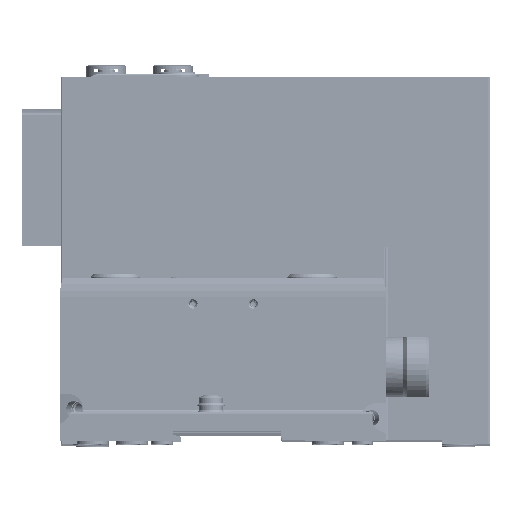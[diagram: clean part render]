
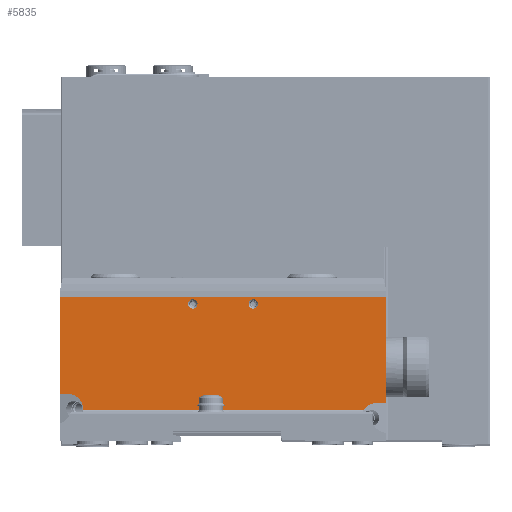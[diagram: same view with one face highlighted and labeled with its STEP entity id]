
A CAD part, top view. The second image highlights one B-rep face of the part: STEP entity #5835.
In plain terms, the highlighted planar face has unit normal (0, 0, 1) as drawn and (-1, 0, 0) by its records, which use the part's own axes.
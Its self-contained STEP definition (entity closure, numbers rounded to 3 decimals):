
#5835 = ADVANCED_FACE( '', ( #12470, #12471, #12472 ), #12473, .F. );
#12470 = FACE_BOUND( '', #19787, .T. );
#12471 = FACE_BOUND( '', #19788, .T. );
#12472 = FACE_OUTER_BOUND( '', #19789, .T. );
#12473 = PLANE( '', #19790 );
#19787 = EDGE_LOOP( '', ( #35013 ) );
#19788 = EDGE_LOOP( '', ( #35014 ) );
#19789 = EDGE_LOOP( '', ( #35015, #35016, #35017, #35018, #35019, #35020, #35021, #35022 ) );
#19790 = AXIS2_PLACEMENT_3D( '', #35023, #35024, #35025 );
#35013 = ORIENTED_EDGE( '', *, *, #43232, .T. );
#35014 = ORIENTED_EDGE( '', *, *, #45372, .T. );
#35015 = ORIENTED_EDGE( '', *, *, #41851, .T. );
#35016 = ORIENTED_EDGE( '', *, *, #44826, .T. );
#35017 = ORIENTED_EDGE( '', *, *, #41002, .F. );
#35018 = ORIENTED_EDGE( '', *, *, #42848, .F. );
#35019 = ORIENTED_EDGE( '', *, *, #45373, .F. );
#35020 = ORIENTED_EDGE( '', *, *, #45022, .T. );
#35021 = ORIENTED_EDGE( '', *, *, #44650, .F. );
#35022 = ORIENTED_EDGE( '', *, *, #44074, .T. );
#35023 = CARTESIAN_POINT( '', ( -15.4, 48.7, 54.05 ) );
#35024 = DIRECTION( '', ( 1., 0., 0. ) );
#35025 = DIRECTION( '', ( 0., 0., -1. ) );
#41002 = EDGE_CURVE( '', #48999, #49000, #49001, .F. );
#41851 = EDGE_CURVE( '', #50424, #50422, #50425, .T. );
#42848 = EDGE_CURVE( '', #51967, #48999, #51969, .T. );
#43232 = EDGE_CURVE( '', #52525, #52525, #52526, .T. );
#44074 = EDGE_CURVE( '', #53707, #50424, #53710, .T. );
#44650 = EDGE_CURVE( '', #53707, #54462, #54469, .T. );
#44826 = EDGE_CURVE( '', #50422, #49000, #54692, .T. );
#45022 = EDGE_CURVE( '', #54928, #54462, #54930, .T. );
#45372 = EDGE_CURVE( '', #55356, #55356, #55357, .T. );
#45373 = EDGE_CURVE( '', #54928, #51967, #55358, .F. );
#48999 = VERTEX_POINT( '', #60409 );
#49000 = VERTEX_POINT( '', #60410 );
#49001 = ELLIPSE( '', #60411, 5.176, 5. );
#50422 = VERTEX_POINT( '', #62358 );
#50424 = VERTEX_POINT( '', #62361 );
#50425 = LINE( '', #62362, #62363 );
#51967 = VERTEX_POINT( '', #64376 );
#51969 = LINE( '', #64387, #64388 );
#52525 = VERTEX_POINT( '', #65209 );
#52526 = CIRCLE( '', #65210, 1.55 );
#53707 = VERTEX_POINT( '', #66942 );
#53710 = LINE( '', #66946, #66947 );
#54462 = VERTEX_POINT( '', #67963 );
#54469 = LINE( '', #67973, #67974 );
#54692 = LINE( '', #68259, #68260 );
#54928 = VERTEX_POINT( '', #68570 );
#54930 = LINE( '', #68573, #68574 );
#55356 = VERTEX_POINT( '', #69144 );
#55357 = CIRCLE( '', #69145, 1.55 );
#55358 = ELLIPSE( '', #69146, 5.132, 5. );
#60409 = CARTESIAN_POINT( '', ( -15.4, 11.6, -46.319 ) );
#60410 = CARTESIAN_POINT( '', ( -15.4, 16.8, -51.491 ) );
#60411 = AXIS2_PLACEMENT_3D( '', #72459, #72460, #72461 );
#62358 = CARTESIAN_POINT( '', ( -15.4, 16.8, -54.05 ) );
#62361 = CARTESIAN_POINT( '', ( -15.4, 48.7, -54.05 ) );
#62362 = CARTESIAN_POINT( '', ( -15.4, 48.7, -54.05 ) );
#62363 = VECTOR( '', #73706, 1000. );
#64376 = CARTESIAN_POINT( '', ( -15.4, 11.6, 46.669 ) );
#64387 = CARTESIAN_POINT( '', ( -15.4, 11.6, 54.05 ) );
#64388 = VECTOR( '', #75103, 1000. );
#65209 = CARTESIAN_POINT( '', ( -15.4, 46.55, -11.55 ) );
#65210 = AXIS2_PLACEMENT_3D( '', #75600, #75601, #75602 );
#66942 = CARTESIAN_POINT( '', ( -15.4, 48.7, 54.05 ) );
#66946 = CARTESIAN_POINT( '', ( -15.4, 48.7, 54.05 ) );
#66947 = VECTOR( '', #76605, 1000. );
#67963 = CARTESIAN_POINT( '', ( -15.4, 13.8, 54.05 ) );
#67973 = CARTESIAN_POINT( '', ( -15.4, 48.7, 54.05 ) );
#67974 = VECTOR( '', #77238, 1000. );
#68259 = CARTESIAN_POINT( '', ( -15.4, 16.8, 54.05 ) );
#68260 = VECTOR( '', #77430, 1000. );
#68570 = CARTESIAN_POINT( '', ( -15.4, 13.8, 50.92 ) );
#68573 = CARTESIAN_POINT( '', ( -15.4, 13.8, 54.05 ) );
#68574 = VECTOR( '', #77634, 1000. );
#69144 = CARTESIAN_POINT( '', ( -15.4, 46.55, 8.45 ) );
#69145 = AXIS2_PLACEMENT_3D( '', #77954, #77955, #77956 );
#69146 = AXIS2_PLACEMENT_3D( '', #77957, #77958, #77959 );
#72459 = CARTESIAN_POINT( '', ( -15.4, 11.8, -51.491 ) );
#72460 = DIRECTION( '', ( 1., 0., 0. ) );
#72461 = DIRECTION( '', ( 0., 0., 1. ) );
#73706 = DIRECTION( '', ( 0., -1., 0. ) );
#75103 = DIRECTION( '', ( 0., 0., -1. ) );
#75600 = CARTESIAN_POINT( '', ( -15.4, 46.55, -10. ) );
#75601 = DIRECTION( '', ( 1., 0., 0. ) );
#75602 = DIRECTION( '', ( 0., 0., -1. ) );
#76605 = DIRECTION( '', ( 0., 0., -1. ) );
#77238 = DIRECTION( '', ( 0., -1., 0. ) );
#77430 = DIRECTION( '', ( 0., 0., 1. ) );
#77634 = DIRECTION( '', ( 0., 0., 1. ) );
#77954 = CARTESIAN_POINT( '', ( -15.4, 46.55, 10. ) );
#77955 = DIRECTION( '', ( 1., 0., 0. ) );
#77956 = DIRECTION( '', ( 0., 0., -1. ) );
#77957 = CARTESIAN_POINT( '', ( -15.4, 8.8, 50.92 ) );
#77958 = DIRECTION( '', ( 1., 0., 0. ) );
#77959 = DIRECTION( '', ( 0., 0., -1. ) );
